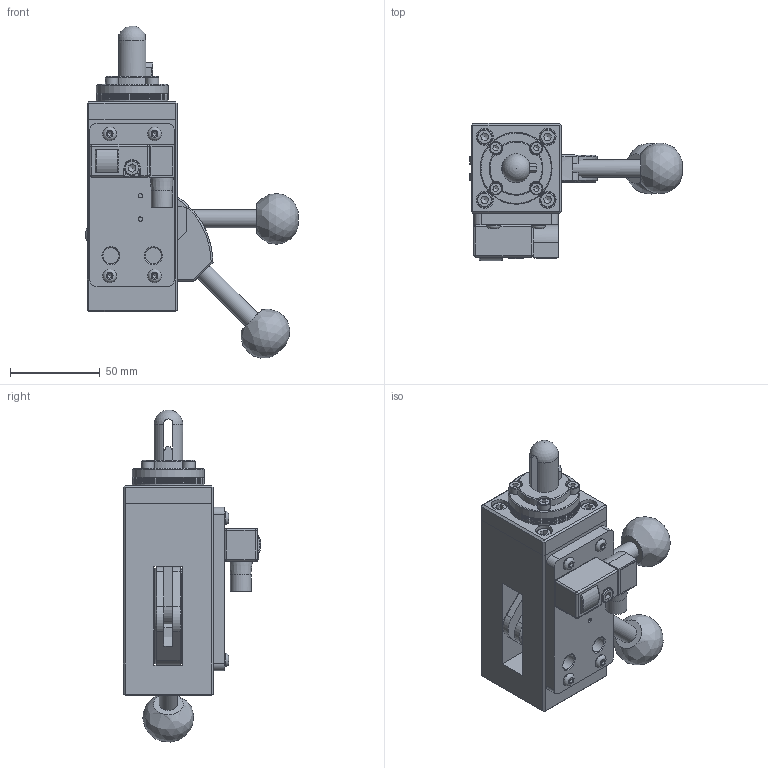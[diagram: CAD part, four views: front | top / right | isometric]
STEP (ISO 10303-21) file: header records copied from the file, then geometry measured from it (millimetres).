
FILE_DESCRIPTION(/* description */ (''),/* implementation_level */ '2;1');
FILE_NAME(/* name */ 'S:\Tom\INVENTOR FILES\AUTOMOTIVE\UNDERBODY CLAMPS\XPCB\SIMPLIFIED MODELS\STEP\XPCB-16-02-ES3-L.stp',/* time_stamp */ '2021-06-08T10:08:29+01:00',/* author */ ('RWilson'),/* organization */ (''),/* preprocessor_version */ 'ST-DEVELOPER v18.1',/* originating_system */ 'Autodesk Inventor 2021',/* authorisation */ '');
FILE_SCHEMA (('AUTOMOTIVE_DESIGN { 1 0 10303 214 3 1 1 }'));
Length unit declared in the file: millimetre
Products named in the file (10): XPCB-16-02-ES1-L; XPCB - BODY; XPCB - HANDLE; XPCB - TOP PLATE; XPCB - 1MM SHIM; XPCB - 0.5MM SHIM; XPCB - 16MM CLAMPING RING & PIN; XPCB - 16MM HOOK; XPCB - BLANKING COVER; XPCB - SWITCH ASSEMBLY
Assembly tree (13 placements, depth 2):
  XPCB-16-02-ES1-L
    XPCB - BODY
    XPCB - HANDLE  x2
    XPCB - TOP PLATE
    XPCB - 0.5MM SHIM  x2
    XPCB - 1MM SHIM  x3
    XPCB - 16MM CLAMPING RING & PIN
    XPCB - 16MM HOOK
    XPCB - BLANKING COVER
    XPCB - SWITCH ASSEMBLY
Bounding box: 118.37 x 76.31 x 184.64 mm (x, y, z)
Volume: 373790.1 mm3; surface area: 117507.1 mm2
Topology: 13 solids, 27 shells, 844 faces, 2182 edges, 1420 vertices
Faces by surface type: plane 384, cylinder 267, cone 125, torus 27, sphere 21, bspline 20
Full cylindrical faces by diameter (mm): 0.7 x8, 1.7 x1, 1.8 x2, 2 x1, 2.459 x6, 2.5 x3, 2.8 x2, 3 x4, 3.2 x2, 3.242 x8, 4 x8, 4.134 x1, 4.3 x2, 4.5 x4, 4.917 x3, 5 x4, 5.3 x1, 5.5 x2, 6 x3, 6.5 x2, 6.6 x3, 6.647 x12, 7 x4, 7.6 x4, 8 x6, 8.376 x2, 8.5 x5, 9 x3, 9.5 x4, 10 x5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
Entity records: 24455 total; most frequent: CARTESIAN_POINT 4994, DIRECTION 4186, ORIENTED_EDGE 3894, EDGE_CURVE 1947, AXIS2_PLACEMENT_3D 1624, VERTEX_POINT 1318, LINE 938, VECTOR 938
